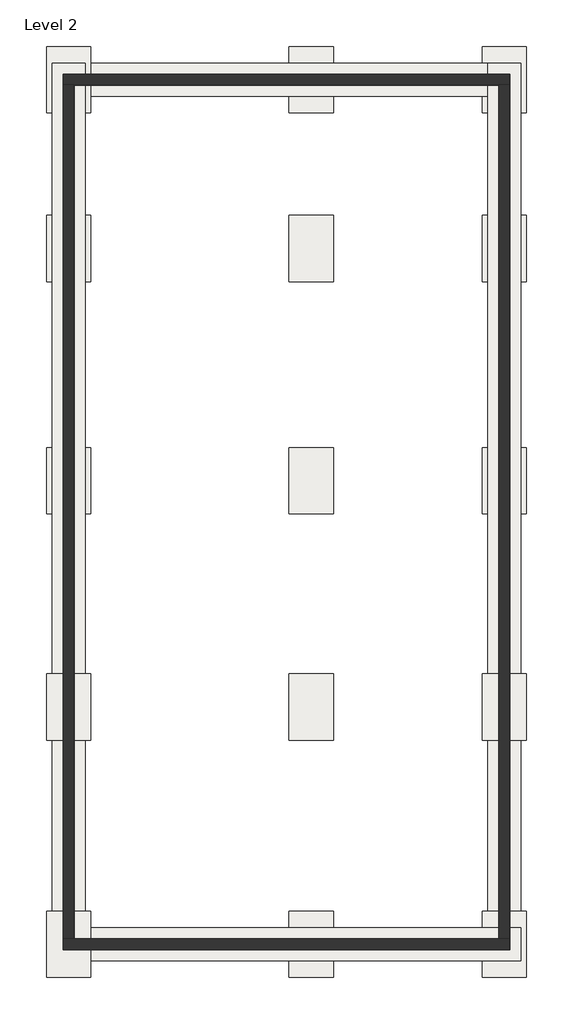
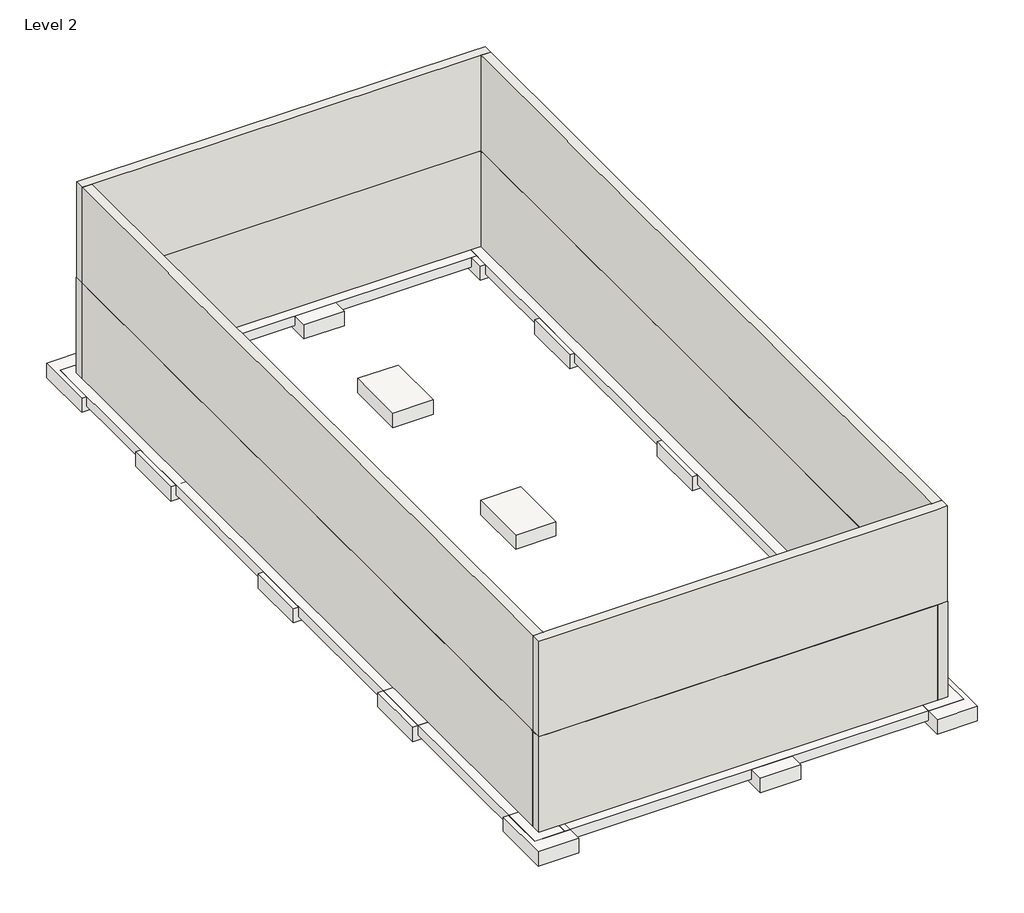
# One storey: 15 slabs, 8 walls, 4 footings.
"""IFC4 building model written with IfcOpenShell, lengths in millimetres."""

from ifc_helpers import new_model, si_unit, frame, origin, place, context, project, spatial, polyline, outline, extrude, faceted_brep, transform, mapped, element, save
from components import slab_5ba74754

model = new_model("IFC4")

# Units and contexts
model_context = context("Model", 3, world=origin())
ifc_project = project(units=[si_unit("LENGTHUNIT", "METRE", prefix="MILLI")], contexts=[model_context])

# Site, building, storey
site = spatial("IfcSite", under=ifc_project)
building = spatial("IfcBuilding", under=site)
storey = spatial("IfcBuildingStorey", under=building, Name="Level 2", Elevation=3048.0)

# Footings
placement = place(None, origin())
element("IfcFooting", 1, ObjectType="Bearing Footing - 36\" x 12\"", at=placement, inside=storey, context=model_context, shape_type="Brep", body=[
    faceted_brep([(-17387.7320279, -5738.8251708, 0.0), (-17387.7320279, -4824.4251708, 0.0), (-17387.7320279, 18139.9436368, 0.0), (-17387.7320279, 19054.3436368, 0.0), (-18302.1320279, 19054.3436368, 0.0), (-18302.1320279, -5738.8251708, 0.0), (-18302.1320279, -5738.8251708, -304.8), (-18302.1320279, 19054.3436368, -304.8), (-17387.7320279, -5738.8251708, -304.8), (-17387.7320279, 19054.3436368, -304.8), (-17387.7320279, 18139.9436368, -304.8), (-17387.7320279, -4824.4251708, -304.8)], [[[0, 1, 2, 3, 4, 5]], [[6, 5, 4, 7]], [[8, 6, 7, 9, 10, 11]], [[0, 8, 11, 10, 9, 3, 2, 1]], [[0, 5, 6, 8]], [[4, 3, 9, 7]]]),
])
element("IfcFooting", 2, ObjectType="Bearing Footing - 36\" x 12\"", at=placement, inside=storey, context=model_context, shape_type="Brep", body=[
    faceted_brep([(-5348.1320279, -5738.8251708, 0.0), (-5348.1320279, -4824.4251708, 0.0), (-6262.5320279, -4824.4251708, 0.0), (-17387.7320279, -4824.4251708, 0.0), (-17387.7320279, -5738.8251708, 0.0), (-5348.1320279, -5738.8251708, -304.8), (-17387.7320279, -5738.8251708, -304.8), (-5348.1320279, -4824.4251708, -304.8), (-17387.7320279, -4824.4251708, -304.8), (-6262.5320279, -4824.4251708, -304.8)], [[[0, 1, 2, 3, 4]], [[5, 0, 4, 6]], [[7, 5, 6, 8, 9]], [[1, 7, 9, 8, 3, 2]], [[4, 3, 8, 6]], [[1, 0, 5, 7]]]),
])
element("IfcFooting", 3, ObjectType="Bearing Footing - 36\" x 12\"", at=placement, inside=storey, context=model_context, shape_type="Brep", body=[
    faceted_brep([(-5348.1320279, 19054.3436368, 0.0), (-6262.5320279, 19054.3436368, 0.0), (-6262.5320279, 18139.9436368, 0.0), (-6262.5320279, -4824.4251708, 0.0), (-5348.1320279, -4824.4251708, 0.0), (-5348.1320279, 19054.3436368, -304.8), (-5348.1320279, -4824.4251708, -304.8), (-6262.5320279, 19054.3436368, -304.8), (-6262.5320279, -4824.4251708, -304.8), (-6262.5320279, 18139.9436368, -304.8)], [[[0, 1, 2, 3, 4]], [[5, 0, 4, 6]], [[7, 5, 6, 8, 9]], [[1, 7, 9, 8, 3, 2]], [[4, 3, 8, 6]], [[1, 0, 5, 7]]]),
])
element("IfcFooting", 4, ObjectType="Bearing Footing - 36\" x 12\"", at=placement, inside=storey, context=model_context, shape_type="SweptSolid", body=[
    extrude(outline(polyline([(-17387.7320279, 18139.9436368), (-17387.7320279, 19054.3436368), (-6262.5320279, 19054.3436368), (-6262.5320279, 18139.9436368), (-17387.7320279, 18139.9436368)])), frame((0.0, 0.0, -304.8), z_axis=(0.0, 0.0, 1.0), x_axis=(1.0, 0.0, 0.0)), (0.0, 0.0, 1.0), 304.8),
])

# Slabs
slab_shape = slab_5ba74754(model_context)
element("IfcSlab", 5, ObjectType="Footing-Rectangular : 72\" x 48\" x 18\"", at=placement, inside=storey, context=model_context, shape_type="MappedRepresentation", body=[
    mapped(slab_shape, transform((-17844.9320279, 13933.0725599, 0.0), x_axis=(1.0, 0.0, 0.0), y_axis=(0.0, 1.0, 0.0), z_axis=(0.0, 0.0, 1.0))),
])
element("IfcSlab", 6, ObjectType="Footing-Rectangular : 72\" x 48\" x 18\"", at=placement, inside=storey, context=model_context, shape_type="MappedRepresentation", body=[
    mapped(slab_shape, transform((-17844.9320279, 7519.9748292, 0.0), x_axis=(1.0, 0.0, 0.0), y_axis=(0.0, 1.0, 0.0), z_axis=(0.0, 0.0, 1.0))),
])
element("IfcSlab", 7, ObjectType="Footing-Rectangular : 72\" x 48\" x 18\"", at=placement, inside=storey, context=model_context, shape_type="MappedRepresentation", body=[
    mapped(slab_shape, transform((-17844.9320279, 1271.5748292, 0.0), x_axis=(1.0, 0.0, 0.0), y_axis=(0.0, 1.0, 0.0), z_axis=(0.0, 0.0, 1.0))),
])
element("IfcSlab", 8, ObjectType="Footing-Rectangular : 72\" x 48\" x 18\"", at=placement, inside=storey, context=model_context, shape_type="MappedRepresentation", body=[
    mapped(slab_shape, transform((-17844.9320279, -5281.6251708, 0.0), x_axis=(1.0, 0.0, 0.0), y_axis=(0.0, 1.0, 0.0), z_axis=(0.0, 0.0, 1.0))),
])
element("IfcSlab", 9, ObjectType="Footing-Rectangular : 72\" x 48\" x 18\"", at=placement, inside=storey, context=model_context, shape_type="MappedRepresentation", body=[
    mapped(slab_shape, transform((-17844.9320279, 18597.1436368, 0.0), x_axis=(1.0, 0.0, 0.0), y_axis=(0.0, 1.0, 0.0), z_axis=(0.0, 0.0, 1.0))),
])
element("IfcSlab", 10, ObjectType="Footing-Rectangular : 72\" x 48\" x 18\"", at=placement, inside=storey, context=model_context, shape_type="MappedRepresentation", body=[
    mapped(slab_shape, transform((-11139.3320279, 13933.0725599, 0.0), x_axis=(1.0, 0.0, 0.0), y_axis=(0.0, 1.0, 0.0), z_axis=(0.0, 0.0, 1.0))),
])
element("IfcSlab", 11, ObjectType="Footing-Rectangular : 72\" x 48\" x 18\"", at=placement, inside=storey, context=model_context, shape_type="MappedRepresentation", body=[
    mapped(slab_shape, transform((-5805.3320279, 13933.0725599, 0.0), x_axis=(1.0, 0.0, 0.0), y_axis=(0.0, 1.0, 0.0), z_axis=(0.0, 0.0, 1.0))),
])
element("IfcSlab", 12, ObjectType="Footing-Rectangular : 72\" x 48\" x 18\"", at=placement, inside=storey, context=model_context, shape_type="MappedRepresentation", body=[
    mapped(slab_shape, transform((-11139.3320279, 7519.9748292, 0.0), x_axis=(1.0, 0.0, 0.0), y_axis=(0.0, 1.0, 0.0), z_axis=(0.0, 0.0, 1.0))),
])
element("IfcSlab", 13, ObjectType="Footing-Rectangular : 72\" x 48\" x 18\"", at=placement, inside=storey, context=model_context, shape_type="MappedRepresentation", body=[
    mapped(slab_shape, transform((-11139.3320279, 1271.5748292, 0.0), x_axis=(1.0, 0.0, 0.0), y_axis=(0.0, 1.0, 0.0), z_axis=(0.0, 0.0, 1.0))),
])
element("IfcSlab", 14, ObjectType="Footing-Rectangular : 72\" x 48\" x 18\"", at=placement, inside=storey, context=model_context, shape_type="MappedRepresentation", body=[
    mapped(slab_shape, transform((-11139.3320279, -5281.6251708, 0.0), x_axis=(1.0, 0.0, 0.0), y_axis=(0.0, 1.0, 0.0), z_axis=(0.0, 0.0, 1.0))),
])
element("IfcSlab", 15, ObjectType="Footing-Rectangular : 72\" x 48\" x 18\"", at=placement, inside=storey, context=model_context, shape_type="MappedRepresentation", body=[
    mapped(slab_shape, transform((-11139.3320279, 18597.1436368, 0.0), x_axis=(1.0, 0.0, 0.0), y_axis=(0.0, 1.0, 0.0), z_axis=(0.0, 0.0, 1.0))),
])
element("IfcSlab", 16, ObjectType="Footing-Rectangular : 72\" x 48\" x 18\"", at=placement, inside=storey, context=model_context, shape_type="MappedRepresentation", body=[
    mapped(slab_shape, transform((-5805.3320279, 7519.9748292, 0.0), x_axis=(1.0, 0.0, 0.0), y_axis=(0.0, 1.0, 0.0), z_axis=(0.0, 0.0, 1.0))),
])
element("IfcSlab", 17, ObjectType="Footing-Rectangular : 72\" x 48\" x 18\"", at=placement, inside=storey, context=model_context, shape_type="MappedRepresentation", body=[
    mapped(slab_shape, transform((-5805.3320279, 1271.5748292, 0.0), x_axis=(1.0, 0.0, 0.0), y_axis=(0.0, 1.0, 0.0), z_axis=(0.0, 0.0, 1.0))),
])
element("IfcSlab", 18, ObjectType="Footing-Rectangular : 72\" x 48\" x 18\"", at=placement, inside=storey, context=model_context, shape_type="MappedRepresentation", body=[
    mapped(slab_shape, transform((-5805.3320279, -5281.6251708, 0.0), x_axis=(1.0, 0.0, 0.0), y_axis=(0.0, 1.0, 0.0), z_axis=(0.0, 0.0, 1.0))),
])
element("IfcSlab", 19, ObjectType="Footing-Rectangular : 72\" x 48\" x 18\"", at=placement, inside=storey, context=model_context, shape_type="MappedRepresentation", body=[
    mapped(slab_shape, transform((-5805.3320279, 18597.1436368, 0.0), x_axis=(1.0, 0.0, 0.0), y_axis=(0.0, 1.0, 0.0), z_axis=(0.0, 0.0, 1.0))),
])

# Walls
element("IfcWall", 20, ObjectType="Generic - 12\" Masonry", at=placement, inside=storey, context=model_context, shape_type="Brep", body=[
    faceted_brep([(-17992.5695279, 18449.5061368, 3048.0), (-17697.2945279, 18449.5061368, 3048.0), (-17616.3320279, 18449.5061368, 3048.0), (-11367.9320279, 18449.5061368, 3048.0), (-10910.7320279, 18449.5061368, 3048.0), (-6033.9320279, 18449.5061368, 3048.0), (-5952.9695279, 18449.5061368, 3048.0), (-5657.6945279, 18449.5061368, 3048.0), (-5657.6945279, 18449.5061368, 6096.0), (-5952.9695279, 18449.5061368, 6096.0), (-6033.9320279, 18449.5061368, 6096.0), (-10910.7320279, 18449.5061368, 6096.0), (-11367.9320279, 18449.5061368, 6096.0), (-17616.3320279, 18449.5061368, 6096.0), (-17697.2945279, 18449.5061368, 6096.0), (-17992.5695279, 18449.5061368, 6096.0), (-17992.5695279, 18744.7811368, 3048.0), (-17992.5695279, 18744.7811368, 6096.0), (-17616.3320279, 18744.7811368, 6096.0), (-11367.9320279, 18744.7811368, 6096.0), (-10910.7320279, 18744.7811368, 6096.0), (-6033.9320279, 18744.7811368, 6096.0), (-5657.6945279, 18744.7811368, 6096.0), (-5657.6945279, 18744.7811368, 3048.0), (-6033.9320279, 18744.7811368, 3048.0), (-10910.7320279, 18744.7811368, 3048.0), (-11367.9320279, 18744.7811368, 3048.0), (-17616.3320279, 18744.7811368, 3048.0)], [[[0, 1, 2, 3, 4, 5, 6, 7, 8, 9, 10, 11, 12, 13, 14, 15]], [[16, 17, 18, 19, 20, 21, 22, 23, 24, 25, 26, 27]], [[7, 6, 5, 4, 3, 2, 1, 0, 16, 27, 26, 25, 24, 23]], [[15, 14, 13, 12, 11, 10, 9, 8, 22, 21, 20, 19, 18, 17]], [[0, 15, 17, 16]], [[8, 7, 23, 22]]]),
])
element("IfcWall", 21, ObjectType="Generic - 12\" Masonry", at=placement, inside=storey, context=model_context, shape_type="Brep", body=[
    faceted_brep([(-5657.6945279, -5133.9876708, 3048.0), (-5952.9695279, -5133.9876708, 3048.0), (-6033.9320279, -5133.9876708, 3048.0), (-10910.7320279, -5133.9876708, 3048.0), (-11367.9320279, -5133.9876708, 3048.0), (-17616.3320279, -5133.9876708, 3048.0), (-17697.2945279, -5133.9876708, 3048.0), (-17992.5695279, -5133.9876708, 3048.0), (-17992.5695279, -5133.9876708, 6096.0), (-17697.2945279, -5133.9876708, 6096.0), (-17616.3320279, -5133.9876708, 6096.0), (-11367.9320279, -5133.9876708, 6096.0), (-10910.7320279, -5133.9876708, 6096.0), (-6033.9320279, -5133.9876708, 6096.0), (-5952.9695279, -5133.9876708, 6096.0), (-5657.6945279, -5133.9876708, 6096.0), (-5657.6945279, -5429.2626708, 3048.0), (-5657.6945279, -5429.2626708, 6096.0), (-6033.9320279, -5429.2626708, 6096.0), (-10910.7320279, -5429.2626708, 6096.0), (-11367.9320279, -5429.2626708, 6096.0), (-17616.3320279, -5429.2626708, 6096.0), (-17992.5695279, -5429.2626708, 6096.0), (-17992.5695279, -5429.2626708, 3048.0), (-17616.3320279, -5429.2626708, 3048.0), (-11367.9320279, -5429.2626708, 3048.0), (-10910.7320279, -5429.2626708, 3048.0), (-6033.9320279, -5429.2626708, 3048.0)], [[[0, 1, 2, 3, 4, 5, 6, 7, 8, 9, 10, 11, 12, 13, 14, 15]], [[16, 17, 18, 19, 20, 21, 22, 23, 24, 25, 26, 27]], [[7, 6, 5, 4, 3, 2, 1, 0, 16, 27, 26, 25, 24, 23]], [[15, 14, 13, 12, 11, 10, 9, 8, 22, 21, 20, 19, 18, 17]], [[8, 7, 23, 22]], [[0, 15, 17, 16]]]),
])
element("IfcWall", 22, ObjectType="Generic - 12\" Masonry", at=placement, inside=storey, context=model_context, shape_type="Brep", body=[
    faceted_brep([(-17992.5695279, 18449.5061368, 3048.0), (-17992.5695279, 18292.3436368, 3048.0), (-17992.5695279, 14237.8725599, 3048.0), (-17992.5695279, 13628.2725599, 3048.0), (-17992.5695279, 7824.7748292, 3048.0), (-17992.5695279, 7215.1748292, 3048.0), (-17992.5695279, 1576.3748292, 3048.0), (-17992.5695279, 966.7748292, 3048.0), (-17992.5695279, -4976.8251708, 3048.0), (-17992.5695279, -5133.9876708, 3048.0), (-17992.5695279, -5133.9876708, 6096.0), (-17992.5695279, -4976.8251708, 6096.0), (-17992.5695279, 966.7748292, 6096.0), (-17992.5695279, 1576.3748292, 6096.0), (-17992.5695279, 7215.1748292, 6096.0), (-17992.5695279, 7824.7748292, 6096.0), (-17992.5695279, 13628.2725599, 6096.0), (-17992.5695279, 14237.8725599, 6096.0), (-17992.5695279, 18292.3436368, 6096.0), (-17992.5695279, 18449.5061368, 6096.0), (-17697.2945279, 18449.5061368, 3048.0), (-17697.2945279, 18449.5061368, 6096.0), (-17697.2945279, 18292.3436368, 6096.0), (-17697.2945279, 14237.8725599, 6096.0), (-17697.2945279, 13628.2725599, 6096.0), (-17697.2945279, 7824.7748292, 6096.0), (-17697.2945279, 7215.1748292, 6096.0), (-17697.2945279, 1576.3748292, 6096.0), (-17697.2945279, 966.7748292, 6096.0), (-17697.2945279, -4976.8251708, 6096.0), (-17697.2945279, -5133.9876708, 6096.0), (-17697.2945279, -5133.9876708, 3048.0), (-17697.2945279, -4976.8251708, 3048.0), (-17697.2945279, 966.7748292, 3048.0), (-17697.2945279, 1576.3748292, 3048.0), (-17697.2945279, 7215.1748292, 3048.0), (-17697.2945279, 7824.7748292, 3048.0), (-17697.2945279, 13628.2725599, 3048.0), (-17697.2945279, 14237.8725599, 3048.0), (-17697.2945279, 18292.3436368, 3048.0)], [[[0, 1, 2, 3, 4, 5, 6, 7, 8, 9, 10, 11, 12, 13, 14, 15, 16, 17, 18, 19]], [[20, 21, 22, 23, 24, 25, 26, 27, 28, 29, 30, 31, 32, 33, 34, 35, 36, 37, 38, 39]], [[9, 8, 7, 6, 5, 4, 3, 2, 1, 0, 20, 39, 38, 37, 36, 35, 34, 33, 32, 31]], [[19, 18, 17, 16, 15, 14, 13, 12, 11, 10, 30, 29, 28, 27, 26, 25, 24, 23, 22, 21]], [[0, 19, 21, 20]], [[10, 9, 31, 30]]]),
])
element("IfcWall", 23, ObjectType="Generic - 12\" Masonry", at=placement, inside=storey, context=model_context, shape_type="Brep", body=[
    faceted_brep([(-5952.9695279, 18449.5061368, 3048.0), (-5952.9695279, 18292.3436368, 3048.0), (-5952.9695279, 14237.8725599, 3048.0), (-5952.9695279, 13628.2725599, 3048.0), (-5952.9695279, 7824.7748292, 3048.0), (-5952.9695279, 7215.1748292, 3048.0), (-5952.9695279, 1576.3748292, 3048.0), (-5952.9695279, 966.7748292, 3048.0), (-5952.9695279, -4976.8251708, 3048.0), (-5952.9695279, -5133.9876708, 3048.0), (-5952.9695279, -5133.9876708, 6096.0), (-5952.9695279, -4976.8251708, 6096.0), (-5952.9695279, 966.7748292, 6096.0), (-5952.9695279, 1576.3748292, 6096.0), (-5952.9695279, 7215.1748292, 6096.0), (-5952.9695279, 7824.7748292, 6096.0), (-5952.9695279, 13628.2725599, 6096.0), (-5952.9695279, 14237.8725599, 6096.0), (-5952.9695279, 18292.3436368, 6096.0), (-5952.9695279, 18449.5061368, 6096.0), (-5657.6945279, 18449.5061368, 3048.0), (-5657.6945279, 18449.5061368, 6096.0), (-5657.6945279, 18292.3436368, 6096.0), (-5657.6945279, 14237.8725599, 6096.0), (-5657.6945279, 13628.2725599, 6096.0), (-5657.6945279, 7824.7748292, 6096.0), (-5657.6945279, 7215.1748292, 6096.0), (-5657.6945279, 1576.3748292, 6096.0), (-5657.6945279, 966.7748292, 6096.0), (-5657.6945279, -4976.8251708, 6096.0), (-5657.6945279, -5133.9876708, 6096.0), (-5657.6945279, -5133.9876708, 3048.0), (-5657.6945279, -4976.8251708, 3048.0), (-5657.6945279, 966.7748292, 3048.0), (-5657.6945279, 1576.3748292, 3048.0), (-5657.6945279, 7215.1748292, 3048.0), (-5657.6945279, 7824.7748292, 3048.0), (-5657.6945279, 13628.2725599, 3048.0), (-5657.6945279, 14237.8725599, 3048.0), (-5657.6945279, 18292.3436368, 3048.0)], [[[0, 1, 2, 3, 4, 5, 6, 7, 8, 9, 10, 11, 12, 13, 14, 15, 16, 17, 18, 19]], [[20, 21, 22, 23, 24, 25, 26, 27, 28, 29, 30, 31, 32, 33, 34, 35, 36, 37, 38, 39]], [[9, 8, 7, 6, 5, 4, 3, 2, 1, 0, 20, 39, 38, 37, 36, 35, 34, 33, 32, 31]], [[19, 18, 17, 16, 15, 14, 13, 12, 11, 10, 30, 29, 28, 27, 26, 25, 24, 23, 22, 21]], [[0, 19, 21, 20]], [[10, 9, 31, 30]]]),
])
element("IfcWall", 24, ObjectType="Retaining - 12\" Concrete", at=placement, inside=storey, context=model_context, shape_type="Brep", body=[
    faceted_brep([(-17997.3320279, 18444.7436368, 0.0), (-17692.5320279, 18444.7436368, 0.0), (-17616.3320279, 18444.7436368, 0.0), (-11367.9320279, 18444.7436368, 0.0), (-10910.7320279, 18444.7436368, 0.0), (-6033.9320279, 18444.7436368, 0.0), (-5957.7320279, 18444.7436368, 0.0), (-5652.9320279, 18444.7436368, 0.0), (-5652.9320279, 18444.7436368, 3048.0), (-5957.7320279, 18444.7436368, 3048.0), (-6033.9320279, 18444.7436368, 3048.0), (-10910.7320279, 18444.7436368, 3048.0), (-11367.9320279, 18444.7436368, 3048.0), (-17616.3320279, 18444.7436368, 3048.0), (-17692.5320279, 18444.7436368, 3048.0), (-17997.3320279, 18444.7436368, 3048.0), (-17997.3320279, 18749.5436368, 0.0), (-17997.3320279, 18749.5436368, 3048.0), (-17616.3320279, 18749.5436368, 3048.0), (-11367.9320279, 18749.5436368, 3048.0), (-10910.7320279, 18749.5436368, 3048.0), (-6033.9320279, 18749.5436368, 3048.0), (-5652.9320279, 18749.5436368, 3048.0), (-5652.9320279, 18749.5436368, 0.0), (-6033.9320279, 18749.5436368, 0.0), (-10910.7320279, 18749.5436368, 0.0), (-11367.9320279, 18749.5436368, 0.0), (-17616.3320279, 18749.5436368, 0.0)], [[[0, 1, 2, 3, 4, 5, 6, 7, 8, 9, 10, 11, 12, 13, 14, 15]], [[16, 17, 18, 19, 20, 21, 22, 23, 24, 25, 26, 27]], [[7, 6, 5, 4, 3, 2, 1, 0, 16, 27, 26, 25, 24, 23]], [[15, 14, 13, 12, 11, 10, 9, 8, 22, 21, 20, 19, 18, 17]], [[8, 7, 23, 22]], [[0, 15, 17, 16]]]),
])
element("IfcWall", 25, ObjectType="Retaining - 12\" Concrete", at=placement, inside=storey, context=model_context, shape_type="Brep", body=[
    faceted_brep([(-5957.7320279, 18444.7436368, 0.0), (-5957.7320279, 18292.3436368, 0.0), (-5957.7320279, 14237.8725599, 0.0), (-5957.7320279, 13628.2725599, 0.0), (-5957.7320279, 7824.7748292, 0.0), (-5957.7320279, 7215.1748292, 0.0), (-5957.7320279, 1576.3748292, 0.0), (-5957.7320279, 966.7748292, 0.0), (-5957.7320279, -4976.8251708, 0.0), (-5957.7320279, -5129.2251708, 0.0), (-5957.7320279, -5434.0251708, 0.0), (-5957.7320279, -5434.0251708, 3048.0), (-5957.7320279, -5129.2251708, 3048.0), (-5957.7320279, -4976.8251708, 3048.0), (-5957.7320279, 966.7748292, 3048.0), (-5957.7320279, 1576.3748292, 3048.0), (-5957.7320279, 7215.1748292, 3048.0), (-5957.7320279, 7824.7748292, 3048.0), (-5957.7320279, 13628.2725599, 3048.0), (-5957.7320279, 14237.8725599, 3048.0), (-5957.7320279, 18292.3436368, 3048.0), (-5957.7320279, 18444.7436368, 3048.0), (-5652.9320279, 18444.7436368, 0.0), (-5652.9320279, 18444.7436368, 3048.0), (-5652.9320279, 18292.3436368, 3048.0), (-5652.9320279, 14237.8725599, 3048.0), (-5652.9320279, 13628.2725599, 3048.0), (-5652.9320279, 7824.7748292, 3048.0), (-5652.9320279, 7215.1748292, 3048.0), (-5652.9320279, 1576.3748292, 3048.0), (-5652.9320279, 966.7748292, 3048.0), (-5652.9320279, -4976.8251708, 3048.0), (-5652.9320279, -5434.0251708, 3048.0), (-5652.9320279, -5434.0251708, 0.0), (-5652.9320279, -4976.8251708, 0.0), (-5652.9320279, 966.7748292, 0.0), (-5652.9320279, 1576.3748292, 0.0), (-5652.9320279, 7215.1748292, 0.0), (-5652.9320279, 7824.7748292, 0.0), (-5652.9320279, 13628.2725599, 0.0), (-5652.9320279, 14237.8725599, 0.0), (-5652.9320279, 18292.3436368, 0.0)], [[[0, 1, 2, 3, 4, 5, 6, 7, 8, 9, 10, 11, 12, 13, 14, 15, 16, 17, 18, 19, 20, 21]], [[22, 23, 24, 25, 26, 27, 28, 29, 30, 31, 32, 33, 34, 35, 36, 37, 38, 39, 40, 41]], [[10, 9, 8, 7, 6, 5, 4, 3, 2, 1, 0, 22, 41, 40, 39, 38, 37, 36, 35, 34, 33]], [[21, 20, 19, 18, 17, 16, 15, 14, 13, 12, 11, 32, 31, 30, 29, 28, 27, 26, 25, 24, 23]], [[0, 21, 23, 22]], [[11, 10, 33, 32]]]),
])
element("IfcWall", 26, ObjectType="Retaining - 12\" Concrete", at=placement, inside=storey, context=model_context, shape_type="Brep", body=[
    faceted_brep([(-5957.7320279, -5129.2251708, 0.0), (-6033.9320279, -5129.2251708, 0.0), (-10910.7320279, -5129.2251708, 0.0), (-11367.9320279, -5129.2251708, 0.0), (-17616.3320279, -5129.2251708, 0.0), (-17692.5320279, -5129.2251708, 0.0), (-17997.3320279, -5129.2251708, 0.0), (-17997.3320279, -5129.2251708, 3048.0), (-17692.5320279, -5129.2251708, 3048.0), (-17616.3320279, -5129.2251708, 3048.0), (-11367.9320279, -5129.2251708, 3048.0), (-10910.7320279, -5129.2251708, 3048.0), (-6033.9320279, -5129.2251708, 3048.0), (-5957.7320279, -5129.2251708, 3048.0), (-5957.7320279, -5434.0251708, 0.0), (-5957.7320279, -5434.0251708, 3048.0), (-6033.9320279, -5434.0251708, 3048.0), (-10910.7320279, -5434.0251708, 3048.0), (-11367.9320279, -5434.0251708, 3048.0), (-17616.3320279, -5434.0251708, 3048.0), (-17997.3320279, -5434.0251708, 3048.0), (-17997.3320279, -5434.0251708, 0.0), (-17616.3320279, -5434.0251708, 0.0), (-11367.9320279, -5434.0251708, 0.0), (-10910.7320279, -5434.0251708, 0.0), (-6033.9320279, -5434.0251708, 0.0)], [[[0, 1, 2, 3, 4, 5, 6, 7, 8, 9, 10, 11, 12, 13]], [[14, 15, 16, 17, 18, 19, 20, 21, 22, 23, 24, 25]], [[6, 5, 4, 3, 2, 1, 0, 14, 25, 24, 23, 22, 21]], [[13, 12, 11, 10, 9, 8, 7, 20, 19, 18, 17, 16, 15]], [[0, 13, 15, 14]], [[7, 6, 21, 20]]]),
])
element("IfcWall", 27, ObjectType="Retaining - 12\" Concrete", at=placement, inside=storey, context=model_context, shape_type="Brep", body=[
    faceted_brep([(-17692.5320279, -5129.2251708, 0.0), (-17692.5320279, -4976.8251708, 0.0), (-17692.5320279, 966.7748292, 0.0), (-17692.5320279, 1576.3748292, 0.0), (-17692.5320279, 7215.1748292, 0.0), (-17692.5320279, 7824.7748292, 0.0), (-17692.5320279, 13628.2725599, 0.0), (-17692.5320279, 14237.8725599, 0.0), (-17692.5320279, 18292.3436368, 0.0), (-17692.5320279, 18444.7436368, 0.0), (-17692.5320279, 18444.7436368, 3048.0), (-17692.5320279, 18292.3436368, 3048.0), (-17692.5320279, 14237.8725599, 3048.0), (-17692.5320279, 13628.2725599, 3048.0), (-17692.5320279, 7824.7748292, 3048.0), (-17692.5320279, 7215.1748292, 3048.0), (-17692.5320279, 1576.3748292, 3048.0), (-17692.5320279, 966.7748292, 3048.0), (-17692.5320279, -4976.8251708, 3048.0), (-17692.5320279, -5129.2251708, 3048.0), (-17997.3320279, -5129.2251708, 0.0), (-17997.3320279, -5129.2251708, 3048.0), (-17997.3320279, -4976.8251708, 3048.0), (-17997.3320279, 966.7748292, 3048.0), (-17997.3320279, 1576.3748292, 3048.0), (-17997.3320279, 7215.1748292, 3048.0), (-17997.3320279, 7824.7748292, 3048.0), (-17997.3320279, 13628.2725599, 3048.0), (-17997.3320279, 14237.8725599, 3048.0), (-17997.3320279, 18292.3436368, 3048.0), (-17997.3320279, 18444.7436368, 3048.0), (-17997.3320279, 18444.7436368, 0.0), (-17997.3320279, 18292.3436368, 0.0), (-17997.3320279, 14237.8725599, 0.0), (-17997.3320279, 13628.2725599, 0.0), (-17997.3320279, 7824.7748292, 0.0), (-17997.3320279, 7215.1748292, 0.0), (-17997.3320279, 1576.3748292, 0.0), (-17997.3320279, 966.7748292, 0.0), (-17997.3320279, -4976.8251708, 0.0)], [[[0, 1, 2, 3, 4, 5, 6, 7, 8, 9, 10, 11, 12, 13, 14, 15, 16, 17, 18, 19]], [[20, 21, 22, 23, 24, 25, 26, 27, 28, 29, 30, 31, 32, 33, 34, 35, 36, 37, 38, 39]], [[9, 8, 7, 6, 5, 4, 3, 2, 1, 0, 20, 39, 38, 37, 36, 35, 34, 33, 32, 31]], [[19, 18, 17, 16, 15, 14, 13, 12, 11, 10, 30, 29, 28, 27, 26, 25, 24, 23, 22, 21]], [[0, 19, 21, 20]], [[10, 9, 31, 30]]]),
])

save(model, "model.ifc")
